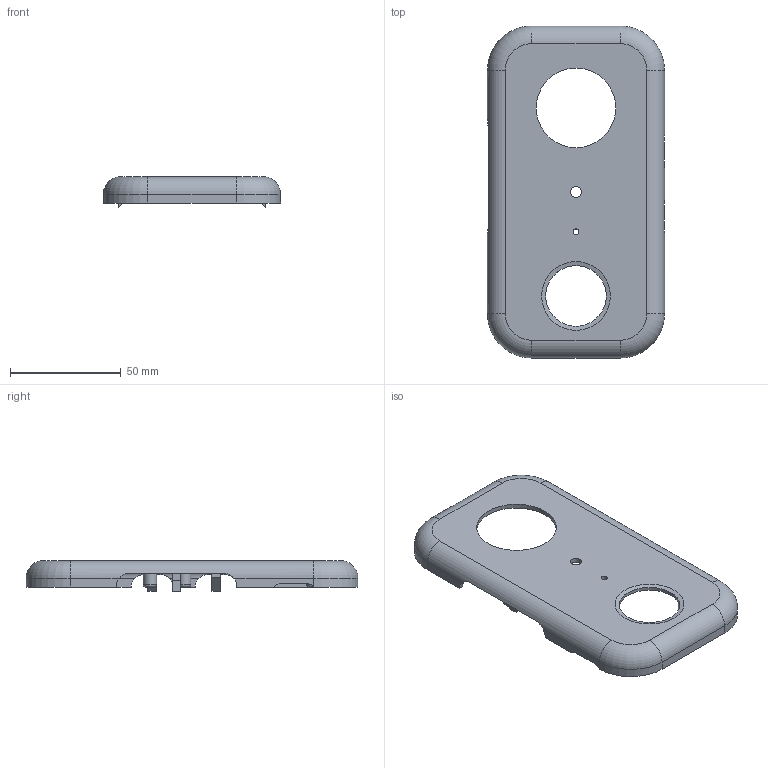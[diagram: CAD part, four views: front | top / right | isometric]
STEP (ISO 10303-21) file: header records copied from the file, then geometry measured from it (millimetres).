
FILE_DESCRIPTION(/* description */ (''),/* implementation_level */ '2;1');
FILE_NAME(/* name */ '08_Front_Shell_Body1.step',/* time_stamp */ '2026-09-20T10:25:48-07:00',/* author */ (''),/* organization */ (''),/* preprocessor_version */ 'ST-DEVELOPER v20.2',/* originating_system */ 'Autodesk Translation Framework v15.15.0.0',/* authorisation */ '');
FILE_SCHEMA (('AUTOMOTIVE_DESIGN { 1 0 10303 214 3 1 1 }'));
Length unit declared in the file: millimetre
Products named in the file (1): 2026-09-20-10-25-48-879
Bounding box: 80 x 150 x 14 mm (x, y, z)
Volume: 28915.8 mm3; surface area: 29022.9 mm2
Topology: 1 solids, 1 shells, 187 faces, 456 edges, 291 vertices
Faces by surface type: plane 87, cylinder 65, torus 21, cone 14
Full cylindrical faces by diameter (mm): 2 x9, 2.6 x1, 2.602 x1, 3.1 x1, 3.101 x1, 5.01 x1, 6 x3, 6.189 x1, 6.5 x2, 27.4 x1, 36 x1
Entity records: 5982 total; most frequent: CARTESIAN_POINT 1469, DIRECTION 955, ORIENTED_EDGE 912, EDGE_CURVE 456, AXIS2_PLACEMENT_3D 349, VERTEX_POINT 291, LINE 257, VECTOR 257
